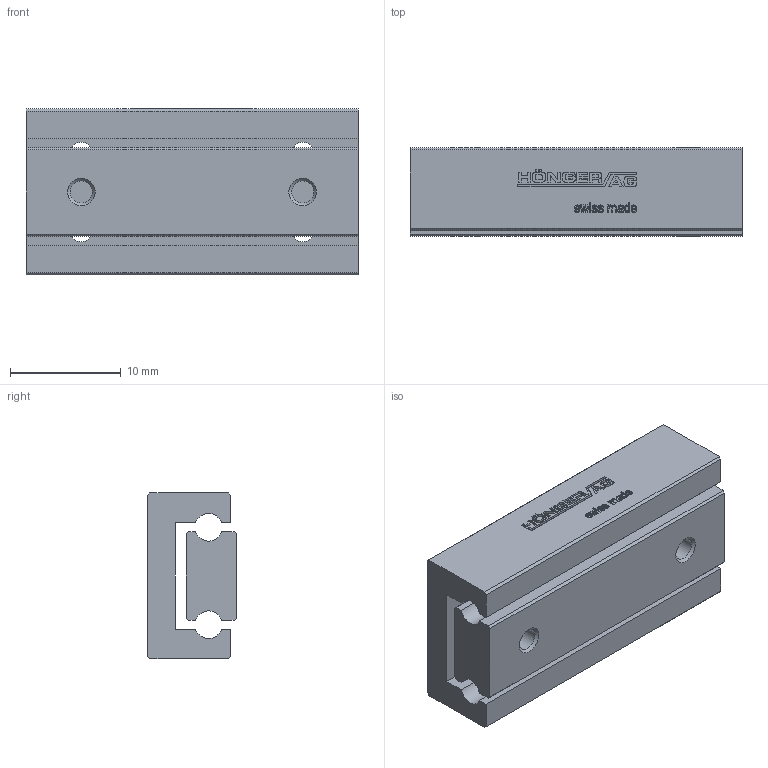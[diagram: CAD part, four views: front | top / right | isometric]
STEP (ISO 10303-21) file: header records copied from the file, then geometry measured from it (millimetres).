
FILE_DESCRIPTION(/* description */ ('STEP AP214'),/* implementation_level */ '2;1');
FILE_NAME(/* name */ 'NDN 2-30.20(0)',/* time_stamp */ '2025-04-16T17:12:12+02:00',/* author */ ('License CC BY-ND 4.0'),/* organization */ ('CADENAS'),/* preprocessor_version */ 'ST-DEVELOPER v19.3',/* originating_system */ 'PARTsolutions',/* authorisation */ ' ');
FILE_SCHEMA (('AUTOMOTIVE_DESIGN {1 0 10303 214 3 1 1}'));
Length unit declared in the file: millimetre
Products named in the file (3): NDN 2-30.20(0); NDN 2-30.20_1; NDN 2-30.20_2
Assembly tree (2 placements, depth 2):
  NDN 2-30.20(0)
    NDN 2-30.20_1
    NDN 2-30.20_2
Bounding box: 30 x 8 x 15 mm (x, y, z)
Volume: 2769.6 mm3; surface area: 2746.8 mm2
Topology: 2 solids, 2 shells, 511 faces, 1432 edges, 952 vertices
Faces by surface type: cylinder 302, plane 201, cone 8
Full cylindrical faces by diameter (mm): 2.013 x6
Entity records: 16723 total; most frequent: DIRECTION 3058, CARTESIAN_POINT 2884, ORIENTED_EDGE 2836, EDGE_CURVE 1418, AXIS2_PLACEMENT_3D 1126, VERTEX_POINT 952, LINE 806, VECTOR 806
